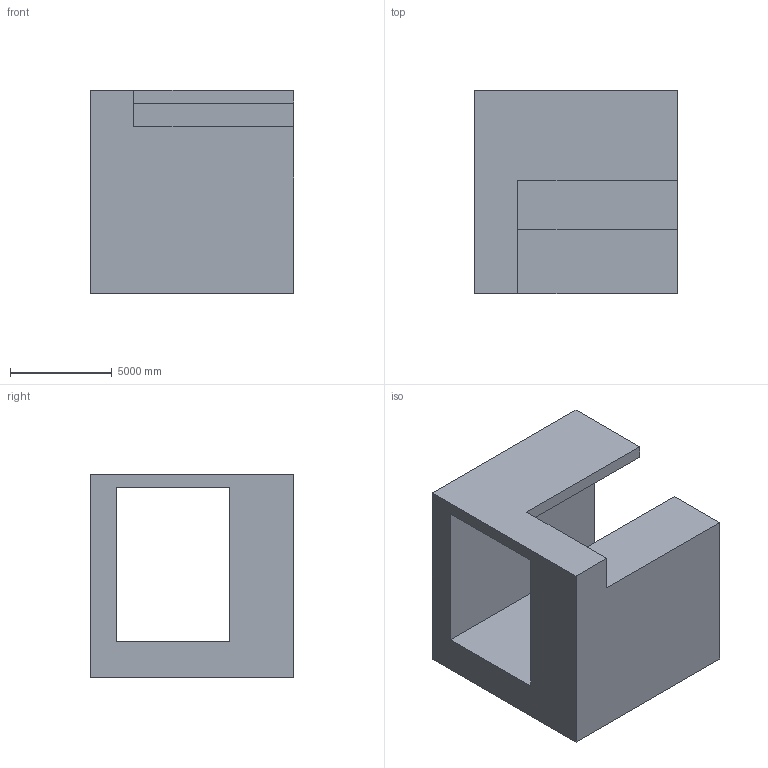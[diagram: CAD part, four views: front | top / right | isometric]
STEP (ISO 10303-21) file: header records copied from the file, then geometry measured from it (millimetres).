
FILE_DESCRIPTION (( 'STEP AP203' ), '1' );
FILE_NAME ('1013.STEP', '2022-08-18T12:25:24', ( 'user' ), ( '' ), 'SwSTEP 2.0', 'SolidWorks 2021', '' );
FILE_SCHEMA (( 'CONFIG_CONTROL_DESIGN' ));
Length unit declared in the file: centimetre
Products named in the file (1): 1013
Bounding box: 10000 x 10000 x 10000 mm (x, y, z)
Volume: 521364697363.3 mm3; surface area: 722406702.3 mm2
Topology: 1 solids, 1 shells, 13 faces, 36 edges, 24 vertices
Faces by surface type: plane 13
Entity records: 491 total; most frequent: CARTESIAN_POINT 74, ORIENTED_EDGE 72, DIRECTION 64, VECTOR 36, LINE 36, EDGE_CURVE 36, VERTEX_POINT 24, EDGE_LOOP 14
